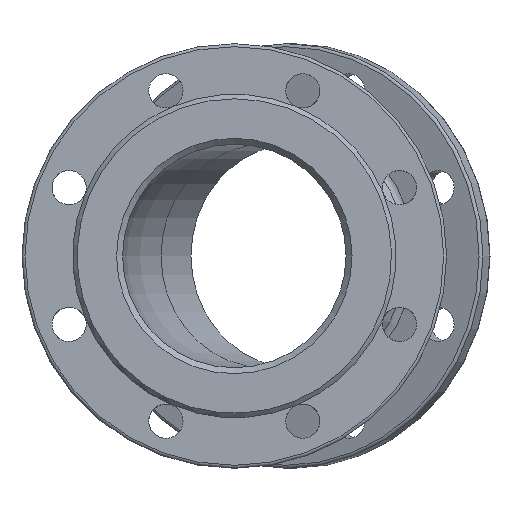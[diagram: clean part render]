
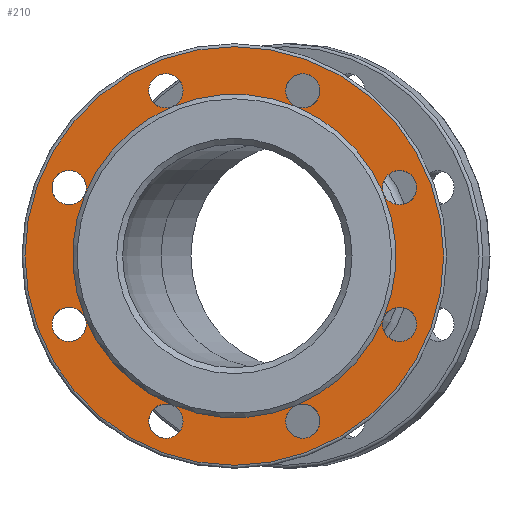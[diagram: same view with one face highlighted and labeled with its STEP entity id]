
A CAD part, left-side view. The second image highlights one B-rep face of the part: STEP entity #210.
In plain terms, the highlighted planar face has unit normal (-1, 0, 0).
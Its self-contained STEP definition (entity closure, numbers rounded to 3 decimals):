
#5 = DIRECTION ( 'NONE',  ( 0., 0., -1. ) ) ;
#12 = ORIENTED_EDGE ( 'NONE', *, *, #1301, .F. ) ;
#37 = DIRECTION ( 'NONE',  ( 0., 0., 1. ) ) ;
#71 = CIRCLE ( 'NONE', #1965, 108.5 ) ;
#83 = DIRECTION ( 'NONE',  ( 0., 0., 1. ) ) ;
#93 = FACE_BOUND ( 'NONE', #523, .T. ) ;
#134 = CARTESIAN_POINT ( 'NONE',  ( 3., -110.866, 45.922 ) ) ;
#152 = DIRECTION ( 'NONE',  ( 0., 0., 1. ) ) ;
#209 = CARTESIAN_POINT ( 'NONE',  ( 3., -45.922, -110.866 ) ) ;
#210 = ADVANCED_FACE ( 'NONE', ( #2150, #93 ), #2124, .F. ) ;
#222 = DIRECTION ( 'NONE',  ( -1., 0., 0. ) ) ;
#227 = DIRECTION ( 'NONE',  ( 0., 0., -1. ) ) ;
#230 = CARTESIAN_POINT ( 'NONE',  ( 3., -100.241, 41.521 ) ) ;
#270 = ORIENTED_EDGE ( 'NONE', *, *, #2078, .F. ) ;
#271 = DIRECTION ( 'NONE',  ( -1., 0., 0. ) ) ;
#273 = CARTESIAN_POINT ( 'NONE',  ( 3., 0., 0. ) ) ;
#284 = ORIENTED_EDGE ( 'NONE', *, *, #1970, .F. ) ;
#293 = VERTEX_POINT ( 'NONE', #1420 ) ;
#319 = AXIS2_PLACEMENT_3D ( 'NONE', #2572, #723, #960 ) ;
#330 = ORIENTED_EDGE ( 'NONE', *, *, #2134, .T. ) ;
#346 = ORIENTED_EDGE ( 'NONE', *, *, #2472, .F. ) ;
#359 = AXIS2_PLACEMENT_3D ( 'NONE', #1342, #1154, #2161 ) ;
#363 = CIRCLE ( 'NONE', #718, 11.5 ) ;
#373 = ORIENTED_EDGE ( 'NONE', *, *, #2054, .F. ) ;
#379 = ORIENTED_EDGE ( 'NONE', *, *, #1954, .F. ) ;
#406 = EDGE_CURVE ( 'NONE', #743, #743, #1117, .T. ) ;
#463 = CARTESIAN_POINT ( 'NONE',  ( 3., 110.866, 45.922 ) ) ;
#476 = EDGE_CURVE ( 'NONE', #743, #2364, #71, .T. ) ;
#503 = CARTESIAN_POINT ( 'NONE',  ( 3., 100.241, 41.521 ) ) ;
#523 = EDGE_LOOP ( 'NONE', ( #2209, #852, #284, #731, #373, #270, #2428, #979, #613, #578, #379, #346, #657, #1749, #12, #2468 ) ) ;
#537 = CIRCLE ( 'NONE', #2231, 108.5 ) ;
#541 = AXIS2_PLACEMENT_3D ( 'NONE', #1893, #2067, #1906 ) ;
#578 = ORIENTED_EDGE ( 'NONE', *, *, #406, .F. ) ;
#603 = VERTEX_POINT ( 'NONE', #503 ) ;
#613 = ORIENTED_EDGE ( 'NONE', *, *, #476, .F. ) ;
#621 = CARTESIAN_POINT ( 'NONE',  ( 3., 0., -140.5 ) ) ;
#637 = CIRCLE ( 'NONE', #2147, 11.5 ) ;
#642 = CARTESIAN_POINT ( 'NONE',  ( 3., 45.922, 110.866 ) ) ;
#657 = ORIENTED_EDGE ( 'NONE', *, *, #1353, .F. ) ;
#682 = DIRECTION ( 'NONE',  ( -1., 0., 0. ) ) ;
#714 = DIRECTION ( 'NONE',  ( -1., 0., 0. ) ) ;
#716 = AXIS2_PLACEMENT_3D ( 'NONE', #1648, #2092, #1896 ) ;
#718 = AXIS2_PLACEMENT_3D ( 'NONE', #642, #1665, #227 ) ;
#723 = DIRECTION ( 'NONE',  ( -1., 0., 0. ) ) ;
#731 = ORIENTED_EDGE ( 'NONE', *, *, #982, .F. ) ;
#743 = VERTEX_POINT ( 'NONE', #2629 ) ;
#825 = DIRECTION ( 'NONE',  ( -1., 0., 0. ) ) ;
#852 = ORIENTED_EDGE ( 'NONE', *, *, #2018, .F. ) ;
#894 = VERTEX_POINT ( 'NONE', #230 ) ;
#909 = AXIS2_PLACEMENT_3D ( 'NONE', #2489, #1479, #5 ) ;
#960 = DIRECTION ( 'NONE',  ( 0., 0., 1. ) ) ;
#979 = ORIENTED_EDGE ( 'NONE', *, *, #2121, .F. ) ;
#982 = EDGE_CURVE ( 'NONE', #894, #894, #1500, .T. ) ;
#1000 = AXIS2_PLACEMENT_3D ( 'NONE', #1266, #682, #1507 ) ;
#1016 = VERTEX_POINT ( 'NONE', #2197 ) ;
#1040 = CARTESIAN_POINT ( 'NONE',  ( 3., 0., 0. ) ) ;
#1050 = EDGE_CURVE ( 'NONE', #1016, #2430, #1669, .T. ) ;
#1052 = CARTESIAN_POINT ( 'NONE',  ( 3., -110.866, -45.922 ) ) ;
#1062 = DIRECTION ( 'NONE',  ( -1., 0., 0. ) ) ;
#1068 = DIRECTION ( 'NONE',  ( 0., 0., 1. ) ) ;
#1117 = CIRCLE ( 'NONE', #716, 11.5 ) ;
#1125 = AXIS2_PLACEMENT_3D ( 'NONE', #2201, #1180, #2659 ) ;
#1154 = DIRECTION ( 'NONE',  ( 1., 0., 0. ) ) ;
#1162 = AXIS2_PLACEMENT_3D ( 'NONE', #273, #714, #83 ) ;
#1180 = DIRECTION ( 'NONE',  ( -1., 0., 0. ) ) ;
#1249 = AXIS2_PLACEMENT_3D ( 'NONE', #2298, #825, #2080 ) ;
#1256 = CARTESIAN_POINT ( 'NONE',  ( 3., -41.521, -100.241 ) ) ;
#1266 = CARTESIAN_POINT ( 'NONE',  ( 3., 110.866, -45.922 ) ) ;
#1283 = EDGE_CURVE ( 'NONE', #2430, #2430, #363, .T. ) ;
#1301 = EDGE_CURVE ( 'NONE', #2430, #603, #537, .T. ) ;
#1322 = DIRECTION ( 'NONE',  ( 0., 0., 1. ) ) ;
#1330 = AXIS2_PLACEMENT_3D ( 'NONE', #209, #222, #1447 ) ;
#1342 = CARTESIAN_POINT ( 'NONE',  ( 3., 108.5, 0. ) ) ;
#1353 = EDGE_CURVE ( 'NONE', #603, #1399, #2406, .T. ) ;
#1372 = DIRECTION ( 'NONE',  ( 0., 0., -1. ) ) ;
#1399 = VERTEX_POINT ( 'NONE', #2524 ) ;
#1401 = DIRECTION ( 'NONE',  ( -1., 0., 0. ) ) ;
#1409 = AXIS2_PLACEMENT_3D ( 'NONE', #134, #2598, #1372 ) ;
#1420 = CARTESIAN_POINT ( 'NONE',  ( 3., -100.241, -41.521 ) ) ;
#1447 = DIRECTION ( 'NONE',  ( 0., 0., -1. ) ) ;
#1463 = AXIS2_PLACEMENT_3D ( 'NONE', #2534, #1682, #1068 ) ;
#1467 = AXIS2_PLACEMENT_3D ( 'NONE', #2602, #1401, #152 ) ;
#1479 = DIRECTION ( 'NONE',  ( -1., 0., 0. ) ) ;
#1500 = CIRCLE ( 'NONE', #1409, 11.5 ) ;
#1507 = DIRECTION ( 'NONE',  ( 0., 0., -1. ) ) ;
#1584 = CIRCLE ( 'NONE', #1330, 11.5 ) ;
#1648 = CARTESIAN_POINT ( 'NONE',  ( 3., 45.922, -110.866 ) ) ;
#1650 = VERTEX_POINT ( 'NONE', #621 ) ;
#1658 = EDGE_LOOP ( 'NONE', ( #330 ) ) ;
#1665 = DIRECTION ( 'NONE',  ( -1., 0., 0. ) ) ;
#1669 = CIRCLE ( 'NONE', #319, 108.5 ) ;
#1675 = CIRCLE ( 'NONE', #1000, 11.5 ) ;
#1682 = DIRECTION ( 'NONE',  ( -1., 0., 0. ) ) ;
#1705 = DIRECTION ( 'NONE',  ( -1., 0., 0. ) ) ;
#1749 = ORIENTED_EDGE ( 'NONE', *, *, #2268, .F. ) ;
#1759 = CIRCLE ( 'NONE', #909, 11.5 ) ;
#1799 = CIRCLE ( 'NONE', #1249, 108.5 ) ;
#1847 = CIRCLE ( 'NONE', #541, 140.5 ) ;
#1893 = CARTESIAN_POINT ( 'NONE',  ( 3., 0., 0. ) ) ;
#1896 = DIRECTION ( 'NONE',  ( 0., 0., -1. ) ) ;
#1904 = EDGE_CURVE ( 'NONE', #2364, #293, #2011, .T. ) ;
#1906 = DIRECTION ( 'NONE',  ( 0., 0., -1. ) ) ;
#1954 = EDGE_CURVE ( 'NONE', #1399, #743, #2015, .T. ) ;
#1964 = DIRECTION ( 'NONE',  ( 0., 0., -1. ) ) ;
#1965 = AXIS2_PLACEMENT_3D ( 'NONE', #1040, #2563, #1322 ) ;
#1970 = EDGE_CURVE ( 'NONE', #894, #1016, #2063, .T. ) ;
#2011 = CIRCLE ( 'NONE', #1162, 108.5 ) ;
#2015 = CIRCLE ( 'NONE', #1467, 108.5 ) ;
#2018 = EDGE_CURVE ( 'NONE', #1016, #1016, #1759, .T. ) ;
#2054 = EDGE_CURVE ( 'NONE', #293, #894, #1799, .T. ) ;
#2063 = CIRCLE ( 'NONE', #1125, 108.5 ) ;
#2067 = DIRECTION ( 'NONE',  ( -1., 0., 0. ) ) ;
#2078 = EDGE_CURVE ( 'NONE', #293, #293, #637, .T. ) ;
#2080 = DIRECTION ( 'NONE',  ( 0., 0., 1. ) ) ;
#2091 = DIRECTION ( 'NONE',  ( 0., 0., -1. ) ) ;
#2092 = DIRECTION ( 'NONE',  ( -1., 0., 0. ) ) ;
#2121 = EDGE_CURVE ( 'NONE', #2364, #2364, #1584, .T. ) ;
#2124 = PLANE ( 'NONE',  #359 ) ;
#2134 = EDGE_CURVE ( 'NONE', #1650, #1650, #1847, .T. ) ;
#2147 = AXIS2_PLACEMENT_3D ( 'NONE', #1052, #1062, #2091 ) ;
#2150 = FACE_OUTER_BOUND ( 'NONE', #1658, .T. ) ;
#2161 = DIRECTION ( 'NONE',  ( 0., 0., -1. ) ) ;
#2197 = CARTESIAN_POINT ( 'NONE',  ( 3., -41.521, 100.241 ) ) ;
#2201 = CARTESIAN_POINT ( 'NONE',  ( 3., 0., 0. ) ) ;
#2209 = ORIENTED_EDGE ( 'NONE', *, *, #1050, .F. ) ;
#2231 = AXIS2_PLACEMENT_3D ( 'NONE', #2336, #1705, #37 ) ;
#2238 = CIRCLE ( 'NONE', #2623, 11.5 ) ;
#2268 = EDGE_CURVE ( 'NONE', #603, #603, #2238, .T. ) ;
#2298 = CARTESIAN_POINT ( 'NONE',  ( 3., 0., 0. ) ) ;
#2307 = CARTESIAN_POINT ( 'NONE',  ( 3., 41.521, 100.241 ) ) ;
#2336 = CARTESIAN_POINT ( 'NONE',  ( 3., 0., 0. ) ) ;
#2364 = VERTEX_POINT ( 'NONE', #1256 ) ;
#2406 = CIRCLE ( 'NONE', #1463, 108.5 ) ;
#2428 = ORIENTED_EDGE ( 'NONE', *, *, #1904, .F. ) ;
#2430 = VERTEX_POINT ( 'NONE', #2307 ) ;
#2468 = ORIENTED_EDGE ( 'NONE', *, *, #1283, .F. ) ;
#2472 = EDGE_CURVE ( 'NONE', #1399, #1399, #1675, .T. ) ;
#2489 = CARTESIAN_POINT ( 'NONE',  ( 3., -45.922, 110.866 ) ) ;
#2524 = CARTESIAN_POINT ( 'NONE',  ( 3., 100.241, -41.521 ) ) ;
#2534 = CARTESIAN_POINT ( 'NONE',  ( 3., 0., 0. ) ) ;
#2563 = DIRECTION ( 'NONE',  ( -1., 0., 0. ) ) ;
#2572 = CARTESIAN_POINT ( 'NONE',  ( 3., 0., 0. ) ) ;
#2598 = DIRECTION ( 'NONE',  ( -1., 0., 0. ) ) ;
#2602 = CARTESIAN_POINT ( 'NONE',  ( 3., 0., 0. ) ) ;
#2623 = AXIS2_PLACEMENT_3D ( 'NONE', #463, #271, #1964 ) ;
#2629 = CARTESIAN_POINT ( 'NONE',  ( 3., 41.521, -100.241 ) ) ;
#2659 = DIRECTION ( 'NONE',  ( 0., 0., 1. ) ) ;
